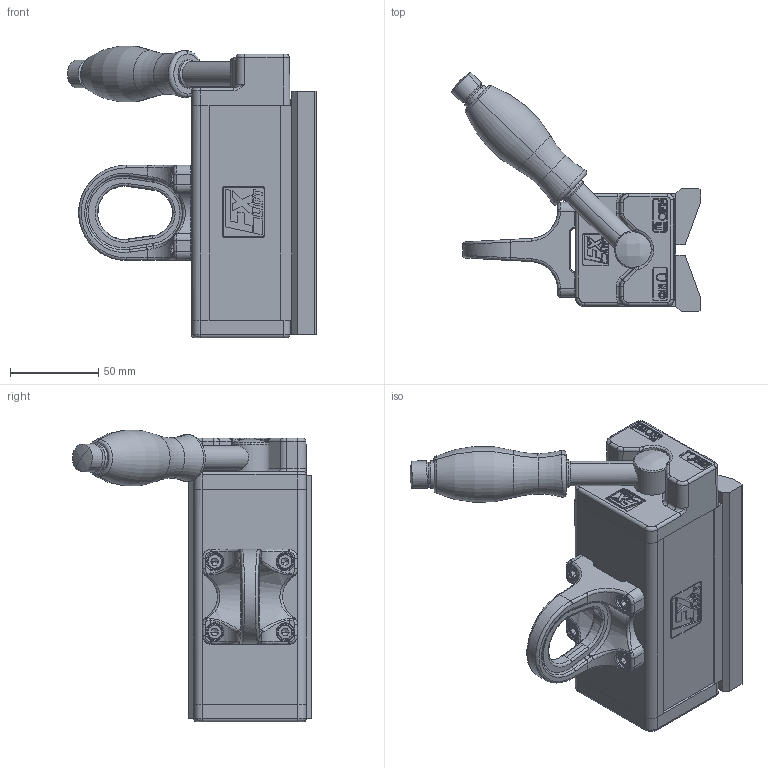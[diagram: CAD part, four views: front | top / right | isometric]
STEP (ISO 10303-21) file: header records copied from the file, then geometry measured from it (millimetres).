
FILE_DESCRIPTION (( 'STEP AP203' ), '1' );
FILE_NAME ('FX R 100 Vertrieb.STEP', '2016-09-22T06:41:54', ( '' ), ( '' ), 'SwSTEP 2.0', 'SolidWorks 2013', '' );
FILE_SCHEMA (( 'CONFIG_CONTROL_DESIGN' ));
Length unit declared in the file: millimetre
Products named in the file (1): FX R 100 Vertrieb
Bounding box: 141.4 x 135.78 x 165.64 mm (x, y, z)
Volume: 715911.4 mm3; surface area: 77271.1 mm2
Topology: 1 solids, 1 shells, 1135 faces, 2717 edges, 1616 vertices
Faces by surface type: plane 400, bspline 351, cylinder 328, cone 38, torus 16, sphere 2
Entity records: 45849 total; most frequent: CARTESIAN_POINT 22310, ORIENTED_EDGE 5398, DIRECTION 4095, EDGE_CURVE 2699, VERTEX_POINT 1616, LINE 1371, VECTOR 1371, AXIS2_PLACEMENT_3D 1362
